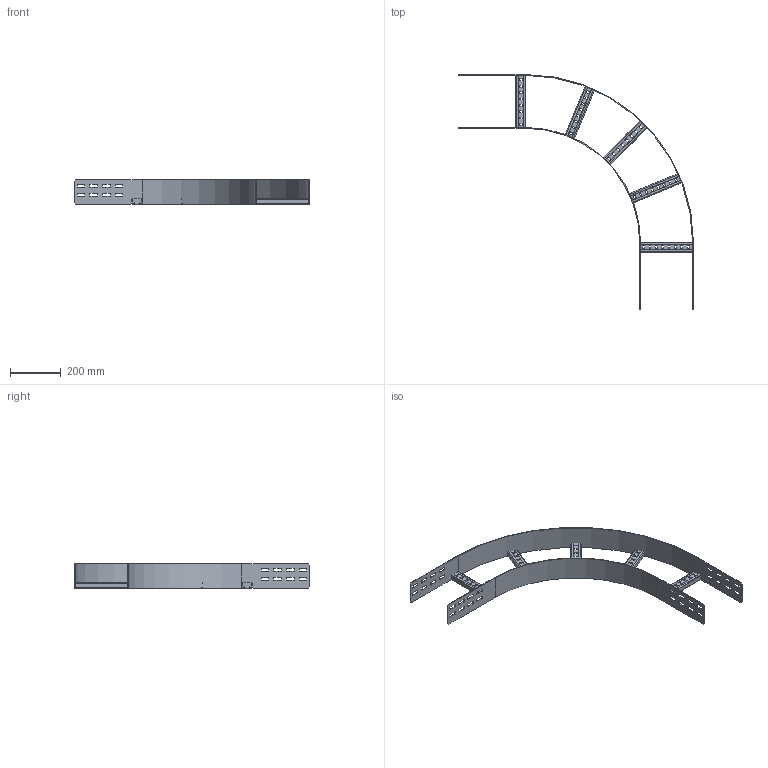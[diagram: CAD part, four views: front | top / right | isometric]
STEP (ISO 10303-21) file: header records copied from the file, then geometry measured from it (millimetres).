
FILE_DESCRIPTION(('Creo Elements/Direct Modeling STEP Export'),'2;1');
FILE_NAME('WPHB10-20-90-45.stp','2016-05-20T 8:45:24',(''),(''),'PTC Creo Elements/Direct Modeling STEP processor for AP214 (Solid Model)','PTC Creo Elements/Direct Modeling 19.0C 15-Aug-2015 (C) Parametric Technology GmbH','');
FILE_SCHEMA(('AUTOMOTIVE_DESIGN { 1 0 10303 214 1 1 1 1 }'));
Length unit declared in the file: millimetre
Products named in the file (4): WPBI_100; WPHBA_100-20; WPHBS20.1; WPHB10-20-90-45
Assembly tree (7 placements, depth 2):
  WPHB10-20-90-45
    WPHBS20.1  x5
    WPHBA_100-20
    WPBI_100
Bounding box: 923 x 923 x 95 mm (x, y, z)
Volume: 913043.5 mm3; surface area: 741333.7 mm2
Topology: 7 solids, 7 shells, 516 faces, 1506 edges, 1004 vertices
Faces by surface type: plane 342, cylinder 174
Entity records: 7763 total; most frequent: CARTESIAN_POINT 1346, ORIENTED_EDGE 1332, DIRECTION 1214, EDGE_CURVE 666, VECTOR 590, LINE 590, VERTEX_POINT 444, AXIS2_PLACEMENT_3D 312
